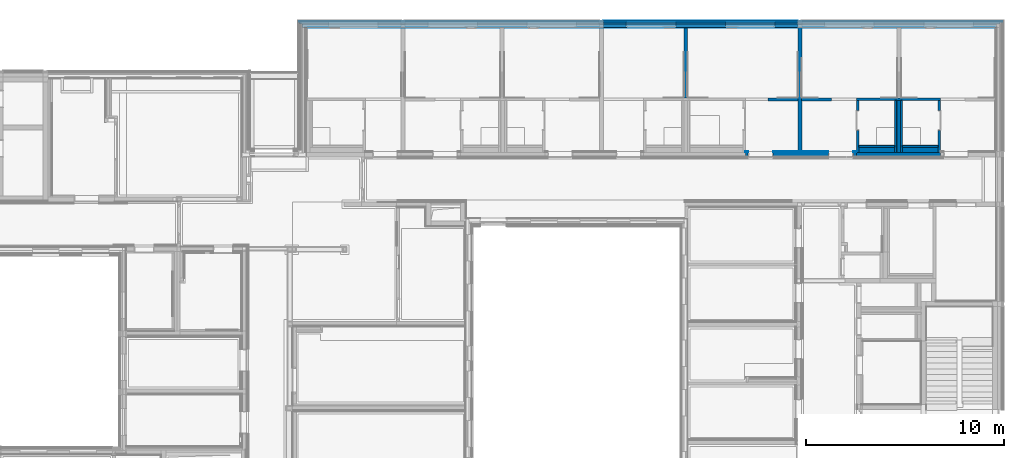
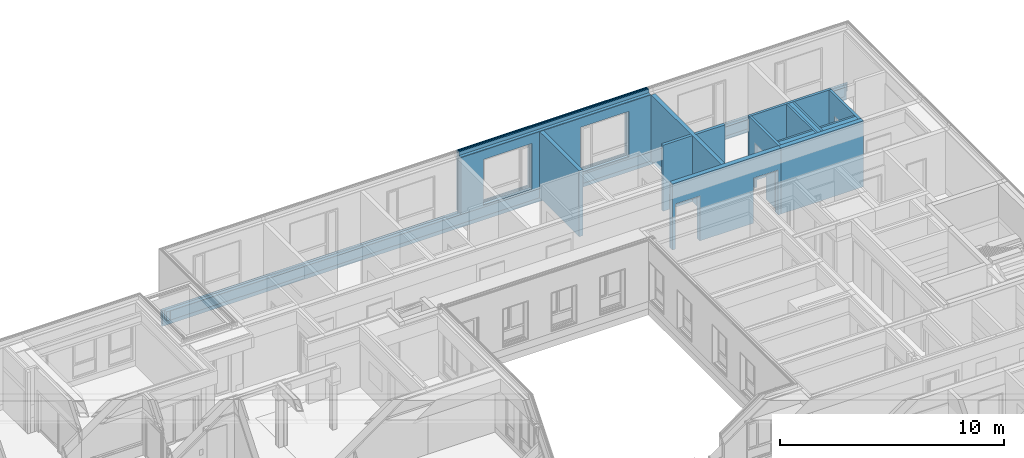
# One storey, part 60 of 207: 28 walls, 20 openings.
"""IFC4 building model written with IfcOpenShell, lengths in metres."""

from ifc_helpers import new_model, entity, si_unit, converted_unit, derived_unit, frame, frame_2d, origin, origin_with_axes, place, context, subcontext, project, spatial, polyline, rectangle, outline, extrude, material, element, save


model = new_model("IFC4")

# Units and contexts
model_context = context("Model", 3, precision=1e-05, world=origin())
body_context = subcontext(model_context, "Body", "Model", "MODEL_VIEW")
ifc_project = project(units=[si_unit("LENGTHUNIT", "METRE"), si_unit("AREAUNIT", "SQUARE_METRE"), si_unit("VOLUMEUNIT", "CUBIC_METRE"), si_unit("MASSUNIT", "GRAM", prefix="KILO"), converted_unit("PLANEANGLEUNIT", "DEGREE", entity("IfcPlaneAngleMeasure", 0.0174532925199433), si_unit("PLANEANGLEUNIT", "RADIAN"), dimensions=[0, 0, 0, 0, 0, 0, 0]), derived_unit("THERMALTRANSMITTANCEUNIT", [(si_unit("POWERUNIT", "WATT"), 1), (si_unit("THERMODYNAMICTEMPERATUREUNIT", "KELVIN"), -1), (si_unit("LENGTHUNIT", "METRE"), -2)]), derived_unit("VOLUMETRICFLOWRATEUNIT", [(si_unit("LENGTHUNIT", "METRE"), 3), (converted_unit("TIMEUNIT", "hour", entity("IfcTimeMeasure", 3600.0), si_unit("TIMEUNIT", "SECOND"), dimensions=[0, 0, 1, 0, 0, 0, 0]), -1), (si_unit("LENGTHUNIT", "METRE"), -1)])], contexts=[model_context])

# Site, building, storey
site_placement = place(None, origin())
site = spatial("IfcSite", under=ifc_project, at=site_placement, Name="Psychiatrie Neubau Wunstorf", CompositionType="ELEMENT")
building_placement = place(site_placement, origin())
building = spatial("IfcBuilding", under=site, at=building_placement, Name="Neubau H2 Stationsgebäude", CompositionType="ELEMENT")
storey_placement = place(building_placement, frame((0.0, 0.0, -0.2)))
storey = spatial("IfcBuildingStorey", under=building, at=storey_placement, Name="H2 Ebene 0", CompositionType="ELEMENT", Elevation=-0.2)

# Wall, openings
ifc_material_1 = material(Name="WA-LB")
wall_1_placement = place(storey_placement, frame((86.1, 31.614, 0.5)))
wall_1 = element("IfcWall", 1, at=wall_1_placement, inside=storey, material=ifc_material_1, context=body_context, shape_type="SweptSolid", body=[
    extrude(rectangle(XDim=9.8, YDim=0.036, at=frame_2d((4.9, 0.018), x_axis=(1.0, 0.0))), origin_with_axes(), (0.0, 0.0, 1.0), 3.1),
])
opening_1_placement = place(wall_1_placement, frame((6.15, 0.0, 0.1), z_axis=(0.0, 1.0, 0.0), x_axis=(0.0, 0.0, 1.0)))
element("IfcOpeningElement", 2, at=opening_1_placement, cuts=wall_1, Name="Fensteröffnung", ObjectType="Opening", context=body_context, shape_type="SweptSolid", body=[
    extrude(outline(polyline([(2.5, 2.5), (2.5, 0.0), (0.0, 0.0), (0.0, 2.5), (2.5, 2.5)])), origin_with_axes(), (0.0, 0.0, 1.0), 0.036),
])
opening_2_placement = place(wall_1_placement, frame((1.15, 0.0, 0.1), z_axis=(0.0, 1.0, 0.0), x_axis=(0.0, 0.0, 1.0)))
element("IfcOpeningElement", 3, at=opening_2_placement, cuts=wall_1, Name="Fensteröffnung", ObjectType="Opening", context=body_context, shape_type="SweptSolid", body=[
    extrude(outline(polyline([(2.5, 2.5), (2.5, 0.0), (0.0, 0.0), (0.0, 2.5), (2.5, 2.5)])), origin_with_axes(), (0.0, 0.0, 1.0), 0.036),
])

ifc_material_2 = material(Name="WA-HD")
wall_2_placement = place(storey_placement, frame((86.1, 31.65, 0.5)))
wall_2 = element("IfcWall", 4, at=wall_2_placement, inside=storey, material=ifc_material_2, context=body_context, shape_type="SweptSolid", body=[
    extrude(rectangle(XDim=9.8, YDim=0.16, at=frame_2d((4.9, 0.08), x_axis=(1.0, 0.0))), origin_with_axes(), (0.0, 0.0, 1.0), 3.1),
])
opening_3_placement = place(wall_2_placement, frame((6.15, 0.0, 0.1), z_axis=(0.0, 1.0, 0.0), x_axis=(0.0, 0.0, 1.0)))
element("IfcOpeningElement", 5, at=opening_3_placement, cuts=wall_2, Name="Fensteröffnung", ObjectType="Opening", context=body_context, shape_type="SweptSolid", body=[
    extrude(outline(polyline([(2.5, 2.5), (2.5, 0.0), (0.0, 0.0), (0.0, 2.5), (2.5, 2.5)])), origin_with_axes(), (0.0, 0.0, 1.0), 0.16),
])
opening_4_placement = place(wall_2_placement, frame((1.15, 0.0, 0.1), z_axis=(0.0, 1.0, 0.0), x_axis=(0.0, 0.0, 1.0)))
element("IfcOpeningElement", 6, at=opening_4_placement, cuts=wall_2, Name="Fensteröffnung", ObjectType="Opening", context=body_context, shape_type="SweptSolid", body=[
    extrude(outline(polyline([(2.5, 2.5), (2.5, 0.0), (0.0, 0.0), (0.0, 2.5), (2.5, 2.5)])), origin_with_axes(), (0.0, 0.0, 1.0), 0.16),
])

ifc_material_3 = material(Name="WA-DL")
wall_3_placement = place(storey_placement, frame((86.1, 31.81, 0.5)))
wall_3 = element("IfcWall", 7, at=wall_3_placement, inside=storey, material=ifc_material_3, context=body_context, shape_type="SweptSolid", body=[
    extrude(rectangle(XDim=9.8, YDim=0.08, at=frame_2d((4.9, 0.04), x_axis=(1.0, 0.0))), origin_with_axes(), (0.0, 0.0, 1.0), 3.3),
])
opening_5_placement = place(wall_3_placement, frame((6.15, 0.0, 0.1), z_axis=(0.0, 1.0, 0.0), x_axis=(0.0, 0.0, 1.0)))
element("IfcOpeningElement", 8, at=opening_5_placement, cuts=wall_3, Name="Fensteröffnung", ObjectType="Opening", context=body_context, shape_type="SweptSolid", body=[
    extrude(outline(polyline([(2.5, 2.5), (2.5, 0.0), (0.0, 0.0), (0.0, 2.5), (2.5, 2.5)])), origin_with_axes(), (0.0, 0.0, 1.0), 0.08),
])
opening_6_placement = place(wall_3_placement, frame((1.15, 0.0, 0.1), z_axis=(0.0, 1.0, 0.0), x_axis=(0.0, 0.0, 1.0)))
element("IfcOpeningElement", 9, at=opening_6_placement, cuts=wall_3, Name="Fensteröffnung", ObjectType="Opening", context=body_context, shape_type="SweptSolid", body=[
    extrude(outline(polyline([(2.5, 2.5), (2.5, 0.0), (0.0, 0.0), (0.0, 2.5), (2.5, 2.5)])), origin_with_axes(), (0.0, 0.0, 1.0), 0.08),
])

ifc_material_4 = material(Name="WA-TP")
wall_4_placement = place(storey_placement, frame((86.1, 31.89, 0.5)))
wall_4 = element("IfcWall", 10, at=wall_4_placement, inside=storey, material=ifc_material_4, context=body_context, shape_type="SweptSolid", body=[
    extrude(rectangle(XDim=9.8, YDim=0.036, at=frame_2d((4.9, 0.018), x_axis=(1.0, 0.0))), origin_with_axes(), (0.0, 0.0, 1.0), 3.3),
])
opening_7_placement = place(wall_4_placement, frame((6.15, 0.0, 0.1), z_axis=(0.0, 1.0, 0.0), x_axis=(0.0, 0.0, 1.0)))
element("IfcOpeningElement", 11, at=opening_7_placement, cuts=wall_4, Name="Fensteröffnung", ObjectType="Opening", context=body_context, shape_type="SweptSolid", body=[
    extrude(outline(polyline([(2.5, 2.5), (2.5, 0.0), (0.0, 0.0), (0.0, 2.5), (2.5, 2.5)])), origin_with_axes(), (0.0, 0.0, 1.0), 0.036),
])
opening_8_placement = place(wall_4_placement, frame((1.15, 0.0, 0.1), z_axis=(0.0, 1.0, 0.0), x_axis=(0.0, 0.0, 1.0)))
element("IfcOpeningElement", 12, at=opening_8_placement, cuts=wall_4, Name="Fensteröffnung", ObjectType="Opening", context=body_context, shape_type="SweptSolid", body=[
    extrude(outline(polyline([(2.5, 2.5), (2.5, 0.0), (0.0, 0.0), (0.0, 2.5), (2.5, 2.5)])), origin_with_axes(), (0.0, 0.0, 1.0), 0.036),
])

ifc_material_5 = material(Name="WA-KL")
wall_5_placement = place(storey_placement, frame((86.1, 31.926, 0.5)))
wall_5 = element("IfcWall", 13, at=wall_5_placement, inside=storey, material=ifc_material_5, context=body_context, shape_type="SweptSolid", body=[
    extrude(rectangle(XDim=9.8, YDim=0.024, at=frame_2d((4.9, 0.012), x_axis=(1.0, 0.0))), origin_with_axes(), (0.0, 0.0, 1.0), 3.3),
])
opening_9_placement = place(wall_5_placement, frame((6.15, 0.0, 0.1), z_axis=(0.0, 1.0, 0.0), x_axis=(0.0, 0.0, 1.0)))
element("IfcOpeningElement", 14, at=opening_9_placement, cuts=wall_5, Name="Fensteröffnung", ObjectType="Opening", context=body_context, shape_type="SweptSolid", body=[
    extrude(outline(polyline([(2.5, 2.5), (2.5, 0.0), (0.0, 0.0), (0.0, 2.5), (2.5, 2.5)])), origin_with_axes(), (0.0, 0.0, 1.0), 0.024),
])
opening_10_placement = place(wall_5_placement, frame((1.15, 0.0, 0.1), z_axis=(0.0, 1.0, 0.0), x_axis=(0.0, 0.0, 1.0)))
element("IfcOpeningElement", 15, at=opening_10_placement, cuts=wall_5, Name="Fensteröffnung", ObjectType="Opening", context=body_context, shape_type="SweptSolid", body=[
    extrude(outline(polyline([(2.5, 2.5), (2.5, 0.0), (0.0, 0.0), (0.0, 2.5), (2.5, 2.5)])), origin_with_axes(), (0.0, 0.0, 1.0), 0.024),
])

ifc_material_6 = material(Name="WA-TL")
wall_6_placement = place(storey_placement, frame((86.1, 31.95, 0.5)))
wall_6 = element("IfcWall", 16, at=wall_6_placement, inside=storey, material=ifc_material_6, context=body_context, shape_type="SweptSolid", body=[
    extrude(rectangle(XDim=9.8, YDim=0.024, at=frame_2d((4.9, 0.012), x_axis=(1.0, 0.0))), origin_with_axes(), (0.0, 0.0, 1.0), 3.3),
])
opening_11_placement = place(wall_6_placement, frame((6.15, 0.0, 0.1), z_axis=(0.0, 1.0, 0.0), x_axis=(0.0, 0.0, 1.0)))
element("IfcOpeningElement", 17, at=opening_11_placement, cuts=wall_6, Name="Fensteröffnung", ObjectType="Opening", context=body_context, shape_type="SweptSolid", body=[
    extrude(outline(polyline([(2.5, 2.5), (2.5, 0.0), (0.0, 0.0), (0.0, 2.5), (2.5, 2.5)])), origin_with_axes(), (0.0, 0.0, 1.0), 0.024),
])
opening_12_placement = place(wall_6_placement, frame((1.15, 0.0, 0.1), z_axis=(0.0, 1.0, 0.0), x_axis=(0.0, 0.0, 1.0)))
element("IfcOpeningElement", 18, at=opening_12_placement, cuts=wall_6, Name="Fensteröffnung", ObjectType="Opening", context=body_context, shape_type="SweptSolid", body=[
    extrude(outline(polyline([(2.5, 2.5), (2.5, 0.0), (0.0, 0.0), (0.0, 2.5), (2.5, 2.5)])), origin_with_axes(), (0.0, 0.0, 1.0), 0.024),
])

ifc_material_7 = material(Name="WA-HS")
wall_7_placement = place(storey_placement, frame((86.1, 31.974, 0.5)))
wall_7 = element("IfcWall", 19, at=wall_7_placement, inside=storey, material=ifc_material_7, context=body_context, shape_type="SweptSolid", body=[
    extrude(rectangle(XDim=9.8, YDim=0.042, at=frame_2d((4.9, 0.021), x_axis=(1.0, 0.0))), origin_with_axes(), (0.0, 0.0, 1.0), 3.3),
])
opening_13_placement = place(wall_7_placement, frame((6.15, 0.0, 0.1), z_axis=(0.0, 1.0, 0.0), x_axis=(0.0, 0.0, 1.0)))
element("IfcOpeningElement", 20, at=opening_13_placement, cuts=wall_7, Name="Fensteröffnung", ObjectType="Opening", context=body_context, shape_type="SweptSolid", body=[
    extrude(outline(polyline([(2.5, 2.5), (2.5, 0.0), (0.0, 0.0), (0.0, 2.5), (2.5, 2.5)])), origin_with_axes(), (0.0, 0.0, 1.0), 0.042),
])
opening_14_placement = place(wall_7_placement, frame((1.15, 0.0, 0.1), z_axis=(0.0, 1.0, 0.0), x_axis=(0.0, 0.0, 1.0)))
element("IfcOpeningElement", 21, at=opening_14_placement, cuts=wall_7, Name="Fensteröffnung", ObjectType="Opening", context=body_context, shape_type="SweptSolid", body=[
    extrude(outline(polyline([(2.5, 2.5), (2.5, 0.0), (0.0, 0.0), (0.0, 2.5), (2.5, 2.5)])), origin_with_axes(), (0.0, 0.0, 1.0), 0.042),
])

# Walls
ifc_material_8 = material(Name="WA-LB")
wall_8_placement = place(storey_placement, frame((71.09, 31.614, 0.0)))
element("IfcWall", 22, at=wall_8_placement, inside=storey, material=ifc_material_8, context=body_context, shape_type="SweptSolid", body=[
    extrude(rectangle(XDim=34.799, YDim=0.021, at=frame_2d((17.3995, 0.0105), x_axis=(1.0, 0.0))), origin_with_axes(), (0.0, 0.0, 1.0), 0.5),
])
ifc_material_9 = material(Name="WA-STB")
wall_9_placement = place(storey_placement, frame((70.915, 31.635, 0.0)))
element("IfcWall", 23, at=wall_9_placement, inside=storey, material=ifc_material_9, context=body_context, shape_type="SweptSolid", body=[
    extrude(rectangle(XDim=34.995, YDim=0.175, at=frame_2d((17.4975, 0.0875), x_axis=(1.0, 0.0))), origin_with_axes(), (0.0, 0.0, 1.0), 0.5),
])
ifc_material_10 = material(Name="WA-DE")
wall_10_placement = place(storey_placement, frame((70.795, 31.81, -0.36)))
element("IfcWall", 24, at=wall_10_placement, inside=storey, material=ifc_material_10, context=body_context, shape_type="SweptSolid", body=[
    extrude(rectangle(XDim=35.29, YDim=0.12, at=frame_2d((17.645, 0.06), x_axis=(1.0, 0.0))), origin_with_axes(), (0.0, 0.0, 1.0), 0.86),
])
ifc_material_11 = material(Name="WA-LB")
wall_11_placement = place(storey_placement, frame((70.78, 31.93, 0.0)))
element("IfcWall", 25, at=wall_11_placement, inside=storey, material=ifc_material_11, context=body_context, shape_type="SweptSolid", body=[
    extrude(rectangle(XDim=35.425, YDim=0.015, at=frame_2d((17.7125, 0.0075), x_axis=(1.0, 0.0))), origin_with_axes(), (0.0, 0.0, 1.0), 0.5),
])
ifc_material_12 = material(Name="WI-LB")
wall_12_placement = place(storey_placement, frame((95.9, 31.614, 0.0), z_axis=(0.0, 0.0, 1.0), x_axis=(0.0, -1.0, 0.0)))
element("IfcWall", 26, at=wall_12_placement, inside=storey, material=ifc_material_12, context=body_context, shape_type="SweptSolid", body=[
    extrude(outline(polyline([(-6.2645, 0.0), (0.0, 0.0), (0.0, 0.2), (-2.59000000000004, 0.2), (-2.59000000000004, 0.174999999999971), (-2.74000000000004, 0.174999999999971), (-2.74000000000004, 0.2), (-6.2645, 0.2), (-6.2645, 0.0)])), frame((6.2645, 0.0, 0.0), z_axis=(0.0, 0.0, 1.0), x_axis=(1.0, 0.0, 0.0)), (0.0, 0.0, 1.0), 3.6),
])
ifc_material_13 = material(Name="WI-LB")
wall_13_placement = place(storey_placement, frame((90.15, 31.614, 0.0), z_axis=(0.0, 0.0, 1.0), x_axis=(0.0, -1.0, 0.0)))
element("IfcWall", 27, at=wall_13_placement, inside=storey, material=ifc_material_13, context=body_context, shape_type="SweptSolid", body=[
    extrude(rectangle(XDim=3.52449999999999, YDim=0.2, at=frame_2d((1.76225, 0.1), x_axis=(1.0, 0.0))), origin_with_axes(), (0.0, 0.0, 1.0), 3.6),
])
ifc_material_14 = material(Name="WI-LB")
wall_14_placement = place(storey_placement, frame((94.4, 27.9395, 0.0)))
element("IfcWall", 28, at=wall_14_placement, inside=storey, material=ifc_material_14, context=body_context, shape_type="SweptSolid", body=[
    extrude(rectangle(XDim=1.5, YDim=0.15, at=frame_2d((0.75, 0.075), x_axis=(1.0, 0.0))), origin_with_axes(), (0.0, 0.0, 1.0), 3.6),
])
ifc_material_15 = material(Name="WI-LB")
wall_15_placement = place(storey_placement, frame((96.075, 27.9395, 0.0)))
element("IfcWall", 29, at=wall_15_placement, inside=storey, material=ifc_material_15, context=body_context, shape_type="SweptSolid", body=[
    extrude(rectangle(XDim=1.525, YDim=0.15, at=frame_2d((0.7625, 0.075), x_axis=(1.0, 0.0))), origin_with_axes(), (0.0, 0.0, 1.0), 3.6),
])

# Wall, openings
ifc_material_16 = material(Name="WI-HW 60")
wall_16_placement = place(storey_placement, frame((93.25, 25.1175, 0.0)))
wall_16 = element("IfcWall", 30, at=wall_16_placement, inside=storey, material=ifc_material_16, context=body_context, shape_type="SweptSolid", body=[
    extrude(rectangle(XDim=5.6, YDim=0.232, at=frame_2d((2.8, 0.116), x_axis=(1.0, 0.0))), origin_with_axes(), (0.0, 0.0, 1.0), 3.6),
])
opening_15_placement = place(wall_16_placement, frame((4.19, 0.0, 0.0), z_axis=(0.0, 1.0, 0.0), x_axis=(0.0, 0.0, 1.0)))
element("IfcOpeningElement", 31, at=opening_15_placement, cuts=wall_16, Name="Türöffnung", ObjectType="Opening", context=body_context, shape_type="SweptSolid", body=[
    extrude(outline(polyline([(2.46, 1.26), (2.46, 0.0), (0.0, 0.0), (0.0, 1.26), (2.46, 1.26)])), origin_with_axes(), (0.0, 0.0, 1.0), 0.232),
])
opening_16_placement = place(wall_16_placement, frame((0.15, 0.0, 0.0), z_axis=(0.0, 1.0, 0.0), x_axis=(0.0, 0.0, 1.0)))
element("IfcOpeningElement", 32, at=opening_16_placement, cuts=wall_16, Name="Türöffnung", ObjectType="Opening", context=body_context, shape_type="SweptSolid", body=[
    extrude(outline(polyline([(2.46, 1.26), (2.46, 0.0), (0.0, 0.0), (0.0, 1.26), (2.46, 1.26)])), origin_with_axes(), (0.0, 0.0, 1.0), 0.232),
])

ifc_material_17 = material(Name="WI-LB")
wall_17_placement = place(storey_placement, frame((93.25, 25.3495, 0.0)))
wall_17 = element("IfcWall", 33, at=wall_17_placement, inside=storey, material=ifc_material_17, context=body_context, shape_type="SweptSolid", body=[
    extrude(rectangle(XDim=5.6, YDim=0.04, at=frame_2d((2.8, 0.02), x_axis=(1.0, 0.0))), origin_with_axes(), (0.0, 0.0, 1.0), 2.9),
])
opening_17_placement = place(wall_17_placement, frame((0.15, 0.0, 0.0), z_axis=(0.0, 1.0, 0.0), x_axis=(0.0, 0.0, 1.0)))
element("IfcOpeningElement", 34, at=opening_17_placement, cuts=wall_17, Name="Türöffnung", ObjectType="Opening", context=body_context, shape_type="SweptSolid", body=[
    extrude(outline(polyline([(2.46, 1.26), (2.46, 0.0), (0.0, 0.0), (0.0, 1.26), (2.46, 1.26)])), origin_with_axes(), (0.0, 0.0, 1.0), 0.04),
])
opening_18_placement = place(wall_17_placement, frame((4.19, 0.0, 0.0), z_axis=(0.0, 1.0, 0.0), x_axis=(0.0, 0.0, 1.0)))
element("IfcOpeningElement", 35, at=opening_18_placement, cuts=wall_17, Name="Türöffnung", ObjectType="Opening", context=body_context, shape_type="SweptSolid", body=[
    extrude(outline(polyline([(2.46, 1.26), (2.46, 0.0), (0.0, 0.0), (0.0, 1.26), (2.46, 1.26)])), origin_with_axes(), (0.0, 0.0, 1.0), 0.04),
])

# Walls
ifc_material_18 = material(Name="WI-HW 60")
wall_18_placement = place(storey_placement, frame((98.85, 25.1175, 0.0), z_axis=(0.0, 0.0, 1.0), x_axis=(1.0, -8.55995013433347e-16, 0.0)))
element("IfcWall", 36, at=wall_18_placement, inside=storey, material=ifc_material_18, context=body_context, shape_type="SweptSolid", body=[
    extrude(rectangle(XDim=4.24999999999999, YDim=0.232, at=frame_2d((2.12499999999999, 0.116), x_axis=(1.0, 0.0))), origin_with_axes(), (0.0, 0.0, 1.0), 3.6),
])
ifc_material_19 = material(Name="WI-LB")
wall_19_placement = place(storey_placement, frame((98.85, 27.9645, 0.0)))
element("IfcWall", 37, at=wall_19_placement, inside=storey, material=ifc_material_19, context=body_context, shape_type="SweptSolid", body=[
    extrude(rectangle(XDim=4.25, YDim=0.125, at=frame_2d((2.125, 0.0625), x_axis=(1.0, 0.0))), origin_with_axes(), (0.0, 0.0, 1.0), 3.6),
])

# Wall, opening
ifc_material_20 = material(Name="WI-LB")
wall_20_placement = place(storey_placement, frame((98.85, 27.9645, 0.0), z_axis=(0.0, 0.0, 1.0), x_axis=(0.0, -1.0, 0.0)))
wall_20 = element("IfcWall", 38, at=wall_20_placement, inside=storey, material=ifc_material_20, context=body_context, shape_type="SweptSolid", body=[
    extrude(rectangle(XDim=2.615, YDim=0.125, at=frame_2d((1.3075, 0.0625), x_axis=(1.0, 0.0))), origin_with_axes(), (0.0, 0.0, 1.0), 3.6),
])
opening_19_placement = place(wall_20_placement, frame((1.51, 0.125, 0.0), z_axis=(0.0, -1.0, 0.0), x_axis=(0.0, 0.0, 1.0)))
element("IfcOpeningElement", 39, at=opening_19_placement, cuts=wall_20, Name="Türöffnung", ObjectType="Opening", context=body_context, shape_type="SweptSolid", body=[
    extrude(outline(polyline([(2.46, 1.01), (2.46, 0.0), (0.0, 0.0), (0.0, 1.01), (2.46, 1.01)])), origin_with_axes(), (0.0, 0.0, 1.0), 0.125),
])

ifc_material_21 = material(Name="WI-LB")
wall_21_placement = place(storey_placement, frame((102.975, 27.9645, 0.0), z_axis=(0.0, 0.0, 1.0), x_axis=(0.0, -1.0, 0.0)))
wall_21 = element("IfcWall", 40, at=wall_21_placement, inside=storey, material=ifc_material_21, context=body_context, shape_type="SweptSolid", body=[
    extrude(rectangle(XDim=2.61500000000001, YDim=0.125, at=frame_2d((1.3075, 0.0625), x_axis=(1.0, 0.0))), origin_with_axes(), (0.0, 0.0, 1.0), 3.6),
])
opening_20_placement = place(wall_21_placement, frame((0.5, 0.0, 0.0), z_axis=(0.0, 1.0, 0.0), x_axis=(0.0, 0.0, 1.0)))
element("IfcOpeningElement", 41, at=opening_20_placement, cuts=wall_21, Name="Türöffnung", ObjectType="Opening", context=body_context, shape_type="SweptSolid", body=[
    extrude(outline(polyline([(2.46, 1.01), (2.46, 0.0), (0.0, 0.0), (0.0, 1.01), (2.46, 1.01)])), origin_with_axes(), (0.0, 0.0, 1.0), 0.125),
])

# Walls
ifc_material_22 = material(Name="WI-IW")
wall_22_placement = place(storey_placement, frame((102.975, 25.6995, 0.0), z_axis=(0.0, 0.0, 1.0), x_axis=(-1.0, 0.0, 0.0)))
element("IfcWall", 42, at=wall_22_placement, inside=storey, material=ifc_material_22, context=body_context, shape_type="SweptSolid", body=[
    extrude(rectangle(XDim=1.8, YDim=0.1, at=frame_2d((0.9, 0.05), x_axis=(1.0, 0.0))), origin_with_axes(), (0.0, 0.0, 1.0), 3.6),
])
ifc_material_23 = material(Name="Installationsraum")
wall_23_placement = place(storey_placement, frame((102.975, 25.5995, 0.0), z_axis=(0.0, 0.0, 1.0), x_axis=(-1.0, 0.0, 0.0)))
element("IfcWall", 43, at=wall_23_placement, inside=storey, material=ifc_material_23, context=body_context, shape_type="SweptSolid", body=[
    extrude(rectangle(XDim=1.8, YDim=0.25, at=frame_2d((0.9, 0.125), x_axis=(1.0, 0.0))), origin_with_axes(), (0.0, 0.0, 1.0), 3.6),
])
ifc_material_24 = material(Name="WI-IW")
wall_24_placement = place(storey_placement, frame((100.775, 27.9645, 0.0), z_axis=(0.0, 0.0, 1.0), x_axis=(0.0, -1.0, 0.0)))
element("IfcWall", 44, at=wall_24_placement, inside=storey, material=ifc_material_24, context=body_context, shape_type="SweptSolid", body=[
    extrude(rectangle(XDim=2.615, YDim=0.1, at=frame_2d((1.3075, 0.05), x_axis=(1.0, 0.0))), origin_with_axes(), (0.0, 0.0, 1.0), 3.6),
])
ifc_material_25 = material(Name="Installationsraum")
wall_25_placement = place(storey_placement, frame((100.875, 27.9645, 0.0), z_axis=(0.0, 0.0, 1.0), x_axis=(0.0, -1.0, 0.0)))
element("IfcWall", 45, at=wall_25_placement, inside=storey, material=ifc_material_25, context=body_context, shape_type="SweptSolid", body=[
    extrude(rectangle(XDim=2.615, YDim=0.2, at=frame_2d((1.3075, 0.1), x_axis=(1.0, 0.0))), origin_with_axes(), (0.0, 0.0, 1.0), 3.6),
])
ifc_material_26 = material(Name="WI-IW")
wall_26_placement = place(storey_placement, frame((101.075, 27.9645, 0.0), z_axis=(0.0, 0.0, 1.0), x_axis=(0.0, -1.0, 0.0)))
element("IfcWall", 46, at=wall_26_placement, inside=storey, material=ifc_material_26, context=body_context, shape_type="SweptSolid", body=[
    extrude(rectangle(XDim=2.615, YDim=0.1, at=frame_2d((1.3075, 0.05), x_axis=(1.0, 0.0))), origin_with_axes(), (0.0, 0.0, 1.0), 3.6),
])
ifc_material_27 = material(Name="WI-IW")
wall_27_placement = place(storey_placement, frame((100.775, 25.6995, 0.0), z_axis=(0.0, 0.0, 1.0), x_axis=(-1.0, 0.0, 0.0)))
element("IfcWall", 47, at=wall_27_placement, inside=storey, material=ifc_material_27, context=body_context, shape_type="SweptSolid", body=[
    extrude(rectangle(XDim=1.8, YDim=0.1, at=frame_2d((0.9, 0.05), x_axis=(1.0, 0.0))), origin_with_axes(), (0.0, 0.0, 1.0), 3.6),
])
ifc_material_28 = material(Name="Installationsraum")
wall_28_placement = place(storey_placement, frame((100.775, 25.5995, 0.0), z_axis=(0.0, 0.0, 1.0), x_axis=(-1.0, 0.0, 0.0)))
element("IfcWall", 48, at=wall_28_placement, inside=storey, material=ifc_material_28, context=body_context, shape_type="SweptSolid", body=[
    extrude(rectangle(XDim=1.8, YDim=0.25, at=frame_2d((0.9, 0.125), x_axis=(1.0, 0.0))), origin_with_axes(), (0.0, 0.0, 1.0), 3.6),
])

save(model, "model.ifc")
